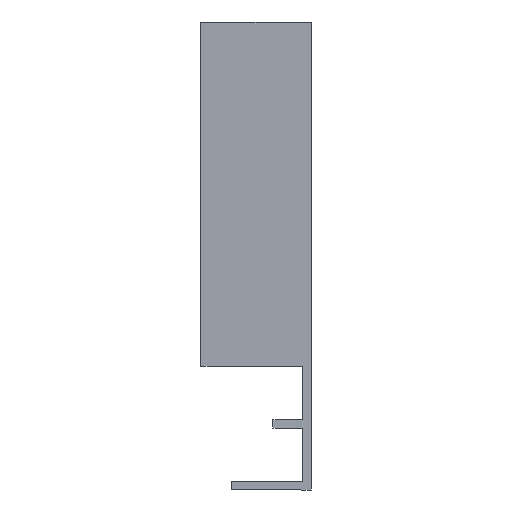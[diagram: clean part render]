
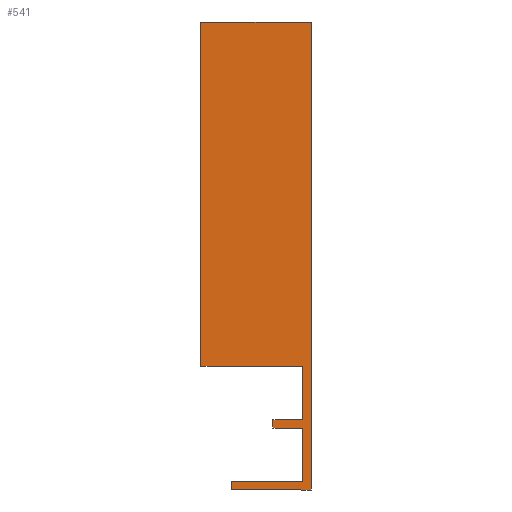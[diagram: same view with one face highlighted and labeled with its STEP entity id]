
A CAD part, left-side view. The second image highlights one B-rep face of the part: STEP entity #541.
In plain terms, the highlighted planar face has unit normal (-1, 0, 0).
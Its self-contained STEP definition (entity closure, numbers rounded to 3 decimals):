
#5 = VERTEX_POINT ( 'NONE', #419 ) ;
#10 = VERTEX_POINT ( 'NONE', #43 ) ;
#11 = VERTEX_POINT ( 'NONE', #44 ) ;
#16 = VERTEX_POINT ( 'NONE', #47 ) ;
#20 = VERTEX_POINT ( 'NONE', #51 ) ;
#22 = VERTEX_POINT ( 'NONE', #53 ) ;
#25 = VERTEX_POINT ( 'NONE', #56 ) ;
#27 = VERTEX_POINT ( 'NONE', #58 ) ;
#29 = VERTEX_POINT ( 'NONE', #60 ) ;
#31 = VERTEX_POINT ( 'NONE', #62 ) ;
#33 = VERTEX_POINT ( 'NONE', #64 ) ;
#34 = VERTEX_POINT ( 'NONE', #65 ) ;
#43 = CARTESIAN_POINT ( 'NONE',  ( -313.5, 6., -17.9 ) ) ;
#44 = CARTESIAN_POINT ( 'NONE',  ( -313.5, -5.5, 49.7 ) ) ;
#47 = CARTESIAN_POINT ( 'NONE',  ( -313.5, 6., -16.7 ) ) ;
#51 = CARTESIAN_POINT ( 'NONE',  ( -313.5, 10.4, 0. ) ) ;
#53 = CARTESIAN_POINT ( 'NONE',  ( -313.5, 10.4, 49.7 ) ) ;
#56 = CARTESIAN_POINT ( 'NONE',  ( -313.5, -4.3, 0. ) ) ;
#58 = CARTESIAN_POINT ( 'NONE',  ( -313.5, -4.3, -7.75 ) ) ;
#60 = CARTESIAN_POINT ( 'NONE',  ( -313.5, 0., -7.75 ) ) ;
#62 = CARTESIAN_POINT ( 'NONE',  ( -313.5, 0., -8.95 ) ) ;
#64 = CARTESIAN_POINT ( 'NONE',  ( -313.5, -4.3, -8.95 ) ) ;
#65 = CARTESIAN_POINT ( 'NONE',  ( -313.5, -4.3, -16.7 ) ) ;
#68 = CARTESIAN_POINT ( 'NONE',  ( -313.5, 6., -17.9 ) ) ;
#72 = DIRECTION ( 'NONE',  ( 0., -1., 0. ) ) ;
#73 = CARTESIAN_POINT ( 'NONE',  ( -313.5, 6., -16.7 ) ) ;
#81 = DIRECTION ( 'NONE',  ( 0., 0., -1. ) ) ;
#82 = CARTESIAN_POINT ( 'NONE',  ( -313.5, -4.3, -7.75 ) ) ;
#83 = DIRECTION ( 'NONE',  ( 0., 1., 0. ) ) ;
#90 = CARTESIAN_POINT ( 'NONE',  ( -313.5, 0., -8.95 ) ) ;
#96 = DIRECTION ( 'NONE',  ( 0., -1., 0. ) ) ;
#97 = CARTESIAN_POINT ( 'NONE',  ( -313.5, 0., -7.75 ) ) ;
#98 = DIRECTION ( 'NONE',  ( 0., 0., -1. ) ) ;
#103 = CARTESIAN_POINT ( 'NONE',  ( -313.5, -5.5, 49.7 ) ) ;
#108 = DIRECTION ( 'NONE',  ( 0., 1., 0. ) ) ;
#127 = CARTESIAN_POINT ( 'NONE',  ( -313.5, -4.3, -16.7 ) ) ;
#128 = DIRECTION ( 'NONE',  ( 0., 1., 0. ) ) ;
#129 = CARTESIAN_POINT ( 'NONE',  ( -313.5, -5.5, -17.9 ) ) ;
#130 = DIRECTION ( 'NONE',  ( 0., 0., 1. ) ) ;
#137 = CARTESIAN_POINT ( 'NONE',  ( -313.5, 10.4, 49.7 ) ) ;
#138 = DIRECTION ( 'NONE',  ( 0., 0., -1. ) ) ;
#139 = CARTESIAN_POINT ( 'NONE',  ( -313.5, 10.4, 0. ) ) ;
#140 = DIRECTION ( 'NONE',  ( 0., -1., 0. ) ) ;
#141 = CARTESIAN_POINT ( 'NONE',  ( -313.5, -4.3, -8.95 ) ) ;
#142 = DIRECTION ( 'NONE',  ( 0., 0., -1. ) ) ;
#157 = PLANE ( 'NONE',  #461 ) ;
#160 = CARTESIAN_POINT ( 'NONE',  ( -313.5, 6., -16.7 ) ) ;
#166 = DIRECTION ( 'NONE',  ( -1., 0., 0. ) ) ;
#167 = DIRECTION ( 'NONE',  ( 0., -1., 0. ) ) ;
#203 = VECTOR ( 'NONE', #81, 1000. ) ;
#205 = LINE ( 'NONE', #73, #203 ) ;
#211 = VECTOR ( 'NONE', #72, 1000. ) ;
#213 = LINE ( 'NONE', #68, #211 ) ;
#217 = LINE ( 'NONE', #103, #225 ) ;
#225 = VECTOR ( 'NONE', #108, 1000. ) ;
#235 = ORIENTED_EDGE ( 'NONE', *, *, #474, .T. ) ;
#236 = ORIENTED_EDGE ( 'NONE', *, *, #475, .T. ) ;
#237 = ORIENTED_EDGE ( 'NONE', *, *, #428, .T. ) ;
#238 = ORIENTED_EDGE ( 'NONE', *, *, #435, .T. ) ;
#239 = ORIENTED_EDGE ( 'NONE', *, *, #469, .T. ) ;
#240 = ORIENTED_EDGE ( 'NONE', *, *, #423, .T. ) ;
#243 = ORIENTED_EDGE ( 'NONE', *, *, #434, .T. ) ;
#244 = ORIENTED_EDGE ( 'NONE', *, *, #476, .T. ) ;
#250 = ORIENTED_EDGE ( 'NONE', *, *, #480, .T. ) ;
#297 = ORIENTED_EDGE ( 'NONE', *, *, #440, .T. ) ;
#312 = ORIENTED_EDGE ( 'NONE', *, *, #470, .T. ) ;
#313 = ORIENTED_EDGE ( 'NONE', *, *, #427, .T. ) ;
#332 = EDGE_LOOP ( 'NONE', ( #239, #313, #240, #312, #297, #235, #236, #250, #237, #238, #243, #244 ) ) ;
#335 = VECTOR ( 'NONE', #98, 1000. ) ;
#336 = LINE ( 'NONE', #97, #335 ) ;
#338 = VECTOR ( 'NONE', #96, 1000. ) ;
#344 = LINE ( 'NONE', #90, #338 ) ;
#349 = VECTOR ( 'NONE', #83, 1000. ) ;
#350 = LINE ( 'NONE', #82, #349 ) ;
#355 = VECTOR ( 'NONE', #128, 1000. ) ;
#360 = LINE ( 'NONE', #127, #355 ) ;
#368 = LINE ( 'NONE', #129, #369 ) ;
#369 = VECTOR ( 'NONE', #130, 1000. ) ;
#376 = LINE ( 'NONE', #137, #377 ) ;
#377 = VECTOR ( 'NONE', #138, 1000. ) ;
#378 = LINE ( 'NONE', #139, #379 ) ;
#379 = VECTOR ( 'NONE', #140, 1000. ) ;
#380 = LINE ( 'NONE', #141, #381 ) ;
#381 = VECTOR ( 'NONE', #142, 1000. ) ;
#388 = LINE ( 'NONE', #496, #389 ) ;
#389 = VECTOR ( 'NONE', #497, 1000. ) ;
#405 = FACE_OUTER_BOUND ( 'NONE', #332, .T. ) ;
#419 = CARTESIAN_POINT ( 'NONE',  ( -313.5, -5.5, -17.9 ) ) ;
#423 = EDGE_CURVE ( 'NONE', #10, #5, #213, .T. ) ;
#427 = EDGE_CURVE ( 'NONE', #16, #10, #205, .T. ) ;
#428 = EDGE_CURVE ( 'NONE', #27, #29, #350, .T. ) ;
#434 = EDGE_CURVE ( 'NONE', #31, #33, #344, .T. ) ;
#435 = EDGE_CURVE ( 'NONE', #29, #31, #336, .T. ) ;
#440 = EDGE_CURVE ( 'NONE', #11, #22, #217, .T. ) ;
#461 = AXIS2_PLACEMENT_3D ( 'NONE', #160, #166, #167 ) ;
#469 = EDGE_CURVE ( 'NONE', #34, #16, #360, .T. ) ;
#470 = EDGE_CURVE ( 'NONE', #5, #11, #368, .T. ) ;
#474 = EDGE_CURVE ( 'NONE', #22, #20, #376, .T. ) ;
#475 = EDGE_CURVE ( 'NONE', #20, #25, #378, .T. ) ;
#476 = EDGE_CURVE ( 'NONE', #33, #34, #380, .T. ) ;
#480 = EDGE_CURVE ( 'NONE', #25, #27, #388, .T. ) ;
#496 = CARTESIAN_POINT ( 'NONE',  ( -313.5, -4.3, 0. ) ) ;
#497 = DIRECTION ( 'NONE',  ( 0., 0., -1. ) ) ;
#541 = ADVANCED_FACE ( 'NONE', ( #405 ), #157, .T. ) ;
